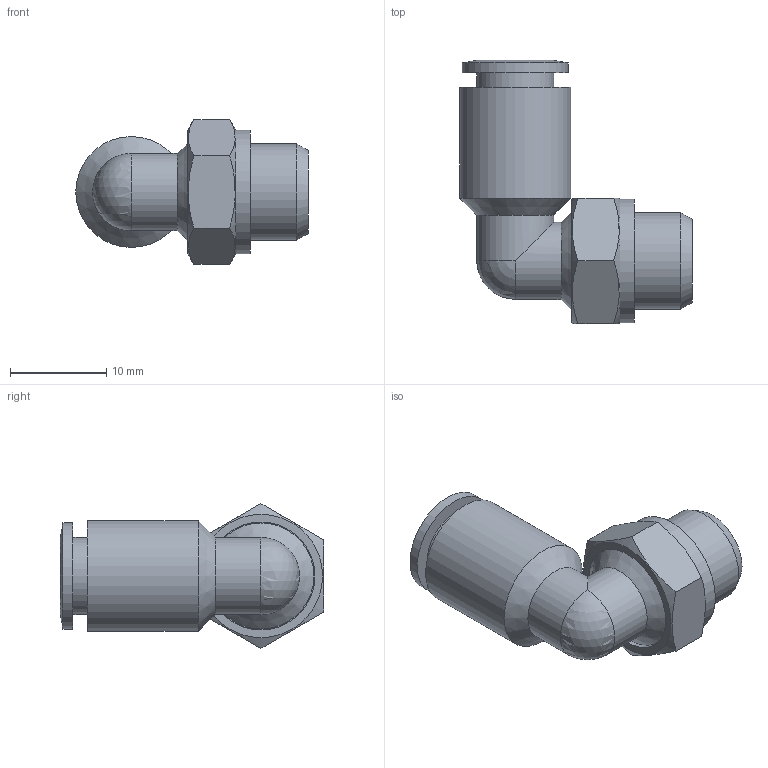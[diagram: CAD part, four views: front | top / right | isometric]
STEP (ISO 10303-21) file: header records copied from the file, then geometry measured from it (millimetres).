
FILE_DESCRIPTION((''),'2;1');
FILE_NAME('C:\Documents and Settings\rivolro1\Documenti\copia di Raccordi\PLASTICA\T22XXXX\T220618.stp','2007-11-02T14:27:11',('Rivolro1'),(''),'Autodesk Inventor 2008','Autodesk Inventor 2008','');
FILE_SCHEMA(('AUTOMOTIVE_DESIGN { 1 0 10303 214 1 1 1 1 }'));
Length unit declared in the file: millimetre
Products named in the file (1): T220618
Bounding box: 24.1 x 27.3 x 15.01 mm (x, y, z)
Volume: 2690.6 mm3; surface area: 2335.3 mm2
Topology: 1 solids, 1 shells, 37 faces, 84 edges, 51 vertices
Faces by surface type: plane 14, cylinder 12, cone 6, bspline 4, sphere 1
Full cylindrical faces by diameter (mm): 3.8 x1, 4.2 x1, 8 x3, 10 x1, 11 x2, 11.2 x1, 11.5 x1, 12.8 x1
Entity records: 1060 total; most frequent: CARTESIAN_POINT 301, DIRECTION 142, ORIENTED_EDGE 112, AXIS2_PLACEMENT_3D 66, EDGE_LOOP 63, EDGE_CURVE 56, VERTEX_POINT 45, FACE_OUTER_BOUND 37
